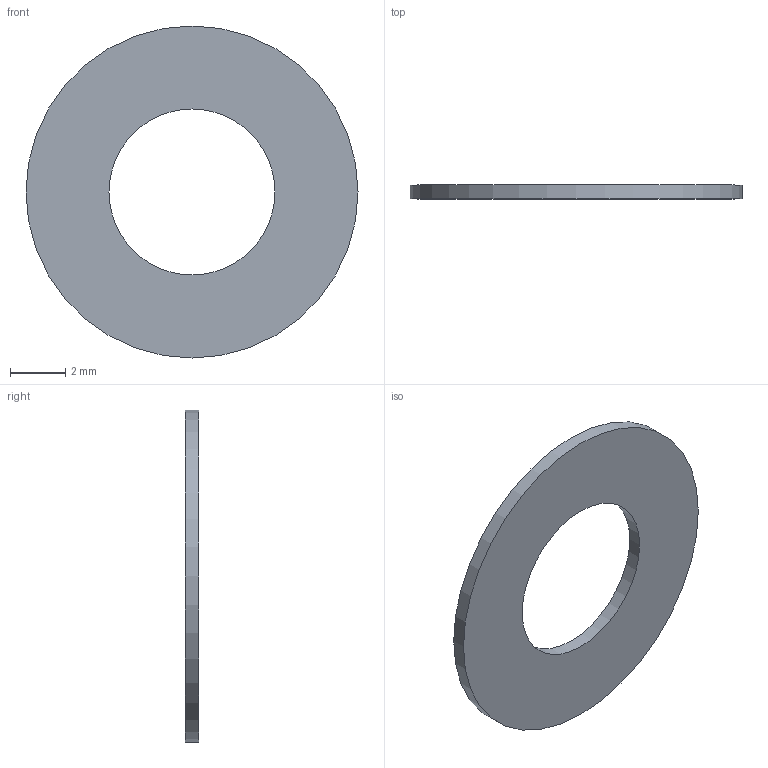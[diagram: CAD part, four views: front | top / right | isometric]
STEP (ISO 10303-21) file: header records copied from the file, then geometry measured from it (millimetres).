
FILE_DESCRIPTION(/* description */ ('','CAx-IF Rec.Pracs.---Representation and Presentation of Product Manufacturing Information (PMI)---4.0---2014-10-13'),/* implementation_level */ '2;1');
FILE_NAME(/* name */ 'Precision Shim - 6mm - 0.5mm v1.step',/* time_stamp */ '2024-11-28T00:17:39+02:00',/* author */ (''),/* organization */ (''),/* preprocessor_version */ 'ST-DEVELOPER v20',/* originating_system */ 'Autodesk Translation Framework v13.20.0.188',/* authorisation */ '');
FILE_SCHEMA (('AP242_MANAGED_MODEL_BASED_3D_ENGINEERING_MIM_LF { 1 0 10303 442 3 1 4 }','AP242_MANAGED_MODEL_BASED_3D_ENGINEERING_MIM_LF { 1 0 10303 442 1 1 4 }'));
Length unit declared in the file: millimetre
Products named in the file (1): Precision Shim - 6mm - 0.5mm
Bounding box: 12 x 0.5 x 12 mm (x, y, z)
Volume: 42.4 mm3; surface area: 197.9 mm2
Topology: 1 solids, 1 shells, 4 faces, 6 edges, 4 vertices
Faces by surface type: cylinder 2, plane 2
Full cylindrical faces by diameter (mm): 6 x1, 12 x1
Entity records: 131 total; most frequent: DIRECTION 20, CARTESIAN_POINT 15, ORIENTED_EDGE 12, AXIS2_PLACEMENT_3D 9, EDGE_LOOP 6, EDGE_CURVE 6, FACE_OUTER_BOUND 4, CIRCLE 4
